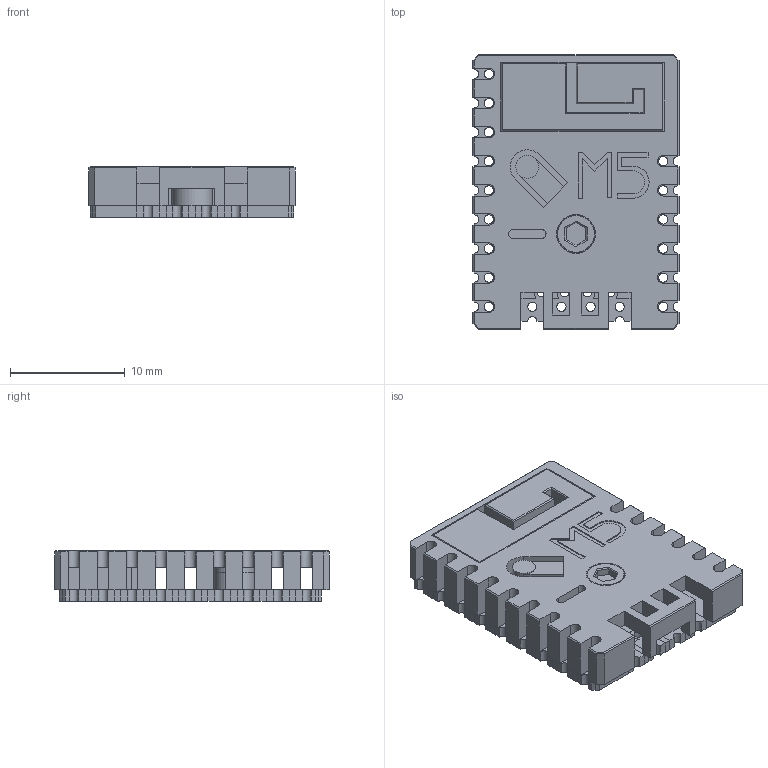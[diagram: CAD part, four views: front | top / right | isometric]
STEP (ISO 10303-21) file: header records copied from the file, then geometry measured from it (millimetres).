
FILE_DESCRIPTION(/* description */ (''),/* implementation_level */ '2;1');
FILE_NAME(/* name */ 'D:/home/sino/Desktop/M5Stamp PICO v8.step',/* time_stamp */ '2021-08-27T23:17:14+09:00',/* author */ (''),/* organization */ (''),/* preprocessor_version */ 'ST-DEVELOPER v18.1',/* originating_system */ 'Autodesk Translation Framework v10.10.0.1391',/* authorisation */ '');
FILE_SCHEMA (('AUTOMOTIVE_DESIGN { 1 0 10303 214 3 1 1 }'));
Length unit declared in the file: millimetre
Products named in the file (1): M5Stamp PICO
Bounding box: 18 x 24 x 4.4 mm (x, y, z)
Volume: 1071.3 mm3; surface area: 2782 mm2
Topology: 24 solids, 24 shells, 558 faces, 1496 edges, 984 vertices
Faces by surface type: plane 462, cylinder 93, cone 3
Full cylindrical faces by diameter (mm): 0.8 x23, 2 x4, 3.5 x3
Entity records: 17397 total; most frequent: CARTESIAN_POINT 3039, ORIENTED_EDGE 2992, DIRECTION 2830, EDGE_CURVE 1496, LINE 1280, VECTOR 1280, VERTEX_POINT 984, AXIS2_PLACEMENT_3D 775
